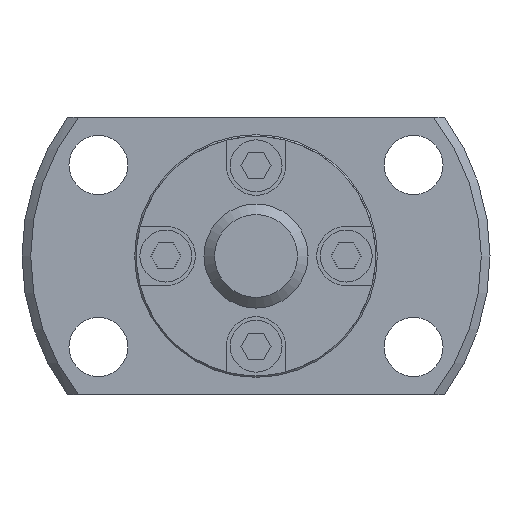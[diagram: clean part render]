
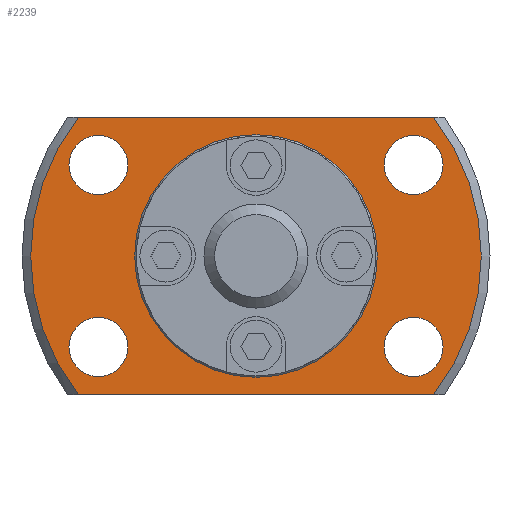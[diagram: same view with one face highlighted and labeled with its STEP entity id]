
A CAD part, left-side view. The second image highlights one B-rep face of the part: STEP entity #2239.
In plain terms, the highlighted planar face has unit normal (-1, 0, 0).
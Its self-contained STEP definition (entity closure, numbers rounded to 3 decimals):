
#92=LINE('',#3521,#308);
#93=LINE('',#3525,#309);
#308=VECTOR('',#2806,1000.);
#309=VECTOR('',#2809,1000.);
#632=ORIENTED_EDGE('',*,*,#1228,.F.);
#633=ORIENTED_EDGE('',*,*,#1229,.F.);
#634=ORIENTED_EDGE('',*,*,#1230,.F.);
#635=ORIENTED_EDGE('',*,*,#1231,.F.);
#636=ORIENTED_EDGE('',*,*,#1184,.F.);
#637=ORIENTED_EDGE('',*,*,#1232,.T.);
#638=ORIENTED_EDGE('',*,*,#1233,.F.);
#639=ORIENTED_EDGE('',*,*,#1234,.T.);
#640=ORIENTED_EDGE('',*,*,#1227,.T.);
#1184=EDGE_CURVE('',#1490,#1491,#1659,.T.);
#1227=EDGE_CURVE('',#1528,#1528,#1681,.T.);
#1228=EDGE_CURVE('',#1529,#1529,#1682,.F.);
#1229=EDGE_CURVE('',#1530,#1530,#1683,.F.);
#1230=EDGE_CURVE('',#1531,#1531,#1684,.F.);
#1231=EDGE_CURVE('',#1532,#1532,#1685,.F.);
#1232=EDGE_CURVE('',#1490,#1533,#92,.T.);
#1233=EDGE_CURVE('',#1534,#1533,#1686,.T.);
#1234=EDGE_CURVE('',#1534,#1491,#93,.T.);
#1490=VERTEX_POINT('',#3411);
#1491=VERTEX_POINT('',#3413);
#1528=VERTEX_POINT('',#3511);
#1529=VERTEX_POINT('',#3514);
#1530=VERTEX_POINT('',#3516);
#1531=VERTEX_POINT('',#3518);
#1532=VERTEX_POINT('',#3520);
#1533=VERTEX_POINT('',#3522);
#1534=VERTEX_POINT('',#3524);
#1659=CIRCLE('',#2410,13.);
#1681=CIRCLE('',#2441,6.8);
#1682=CIRCLE('',#2443,1.7);
#1683=CIRCLE('',#2444,1.7);
#1684=CIRCLE('',#2445,1.7);
#1685=CIRCLE('',#2446,1.7);
#1686=CIRCLE('',#2447,13.);
#1771=EDGE_LOOP('',(#632));
#1772=EDGE_LOOP('',(#633));
#1773=EDGE_LOOP('',(#634));
#1774=EDGE_LOOP('',(#635));
#1775=EDGE_LOOP('',(#636,#637,#638,#639));
#1776=EDGE_LOOP('',(#640));
#1965=FACE_BOUND('',#1771,.T.);
#1966=FACE_BOUND('',#1772,.T.);
#1967=FACE_BOUND('',#1773,.T.);
#1968=FACE_BOUND('',#1774,.T.);
#1969=FACE_BOUND('',#1775,.T.);
#1970=FACE_BOUND('',#1776,.T.);
#2128=PLANE('',#2442);
#2239=ADVANCED_FACE('',(#1965,#1966,#1967,#1968,#1969,#1970),#2128,.F.);
#2410=AXIS2_PLACEMENT_3D('',#3412,#2714,#2715);
#2441=AXIS2_PLACEMENT_3D('',#3510,#2794,#2795);
#2442=AXIS2_PLACEMENT_3D('',#3512,#2796,#2797);
#2443=AXIS2_PLACEMENT_3D('',#3513,#2798,#2799);
#2444=AXIS2_PLACEMENT_3D('',#3515,#2800,#2801);
#2445=AXIS2_PLACEMENT_3D('',#3517,#2802,#2803);
#2446=AXIS2_PLACEMENT_3D('',#3519,#2804,#2805);
#2447=AXIS2_PLACEMENT_3D('',#3523,#2807,#2808);
#2714=DIRECTION('',(1.,0.,0.));
#2715=DIRECTION('',(0.,0.,-1.));
#2794=DIRECTION('',(1.,0.,0.));
#2795=DIRECTION('',(0.,0.,-1.));
#2796=DIRECTION('',(1.,0.,0.));
#2797=DIRECTION('',(0.,0.,-1.));
#2798=DIRECTION('',(1.,0.,0.));
#2799=DIRECTION('',(0.,0.,-1.));
#2800=DIRECTION('',(1.,0.,0.));
#2801=DIRECTION('',(0.,0.,-1.));
#2802=DIRECTION('',(1.,0.,0.));
#2803=DIRECTION('',(0.,0.,-1.));
#2804=DIRECTION('',(1.,0.,0.));
#2805=DIRECTION('',(0.,0.,-1.));
#2806=DIRECTION('',(0.,-1.,0.));
#2807=DIRECTION('',(1.,0.,0.));
#2808=DIRECTION('',(0.,0.,-1.));
#2809=DIRECTION('',(0.,1.,0.));
#3411=CARTESIAN_POINT('',(8.,10.247,-8.));
#3412=CARTESIAN_POINT('',(8.,0.,0.));
#3413=CARTESIAN_POINT('',(8.,10.247,8.));
#3510=CARTESIAN_POINT('',(8.,0.,0.));
#3511=CARTESIAN_POINT('',(8.,0.,-6.8));
#3512=CARTESIAN_POINT('',(8.,6.8,0.));
#3513=CARTESIAN_POINT('',(8.,-9.093,-5.25));
#3514=CARTESIAN_POINT('',(8.,-9.093,-6.95));
#3515=CARTESIAN_POINT('',(8.,-9.093,5.25));
#3516=CARTESIAN_POINT('',(8.,-9.093,3.55));
#3517=CARTESIAN_POINT('',(8.,9.093,-5.25));
#3518=CARTESIAN_POINT('',(8.,9.093,-6.95));
#3519=CARTESIAN_POINT('',(8.,9.093,5.25));
#3520=CARTESIAN_POINT('',(8.,9.093,3.55));
#3521=CARTESIAN_POINT('',(8.,6.8,-8.));
#3522=CARTESIAN_POINT('',(8.,-10.247,-8.));
#3523=CARTESIAN_POINT('',(8.,0.,0.));
#3524=CARTESIAN_POINT('',(8.,-10.247,8.));
#3525=CARTESIAN_POINT('',(8.,6.8,8.));
